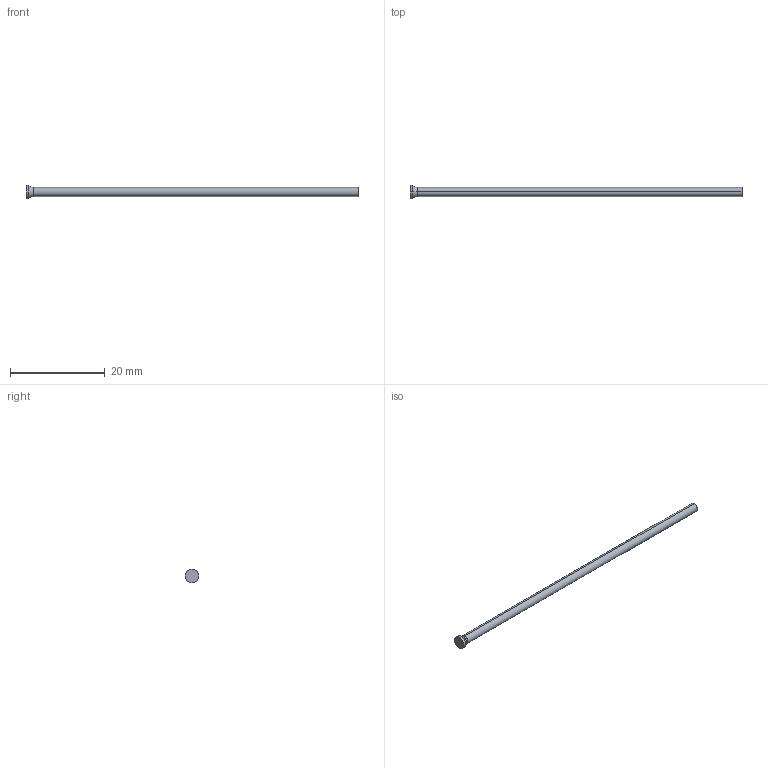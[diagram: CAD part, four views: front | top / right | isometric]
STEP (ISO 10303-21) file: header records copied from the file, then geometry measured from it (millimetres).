
FILE_DESCRIPTION (( 'STEP AP214' ), '1' );
FILE_NAME ('D-1,9x70.STEP', '2020-06-08T09:42:23', ( 'August' ), ( '' ), 'SwSTEP 2.0', 'SolidWorks 2018', '' );
FILE_SCHEMA (( 'AUTOMOTIVE_DESIGN' ));
Length unit declared in the file: millimetre
Products named in the file (1): D-1,9x70
Bounding box: 70 x 2.8 x 2.8 mm (x, y, z)
Volume: 201.4 mm3; surface area: 430.2 mm2
Topology: 1 solids, 1 shells, 10 faces, 18 edges, 10 vertices
Faces by surface type: cylinder 4, torus 2, cone 2, plane 2
Entity records: 280 total; most frequent: DIRECTION 52, CARTESIAN_POINT 39, ORIENTED_EDGE 36, AXIS2_PLACEMENT_3D 23, EDGE_CURVE 18, CIRCLE 12, EDGE_LOOP 10, VERTEX_POINT 10
